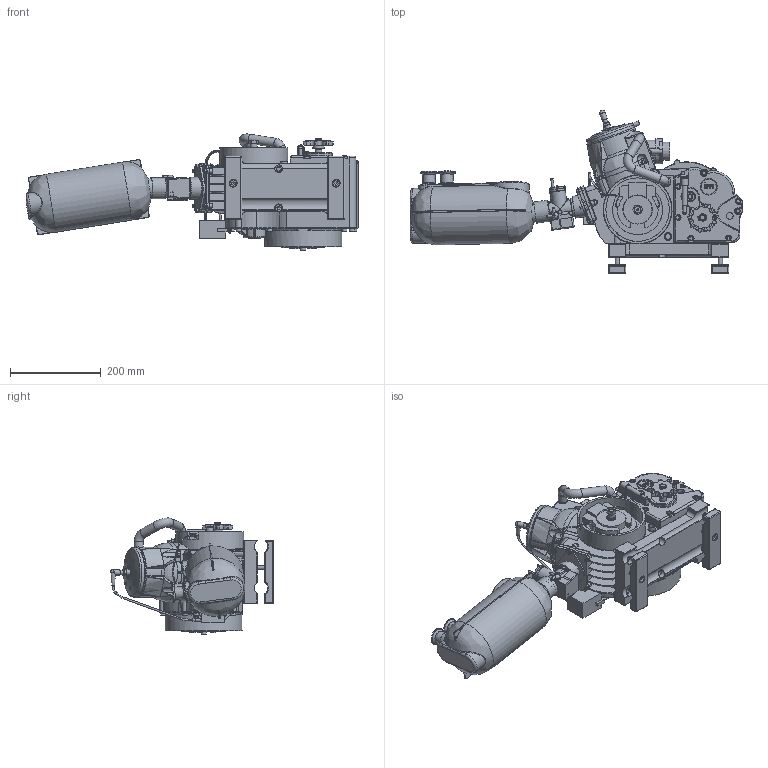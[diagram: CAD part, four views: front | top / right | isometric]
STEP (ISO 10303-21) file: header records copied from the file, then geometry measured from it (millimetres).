
FILE_DESCRIPTION(('STEP AP214'),'1');
FILE_NAME('Motor assembly.stp','2015-10-06T14:41:11',(' '),(' '),'Spatial InterOp 3D',' ',' ');
FILE_SCHEMA(('automotive_design'));
Length unit declared in the file: millimetre
Products named in the file (20): Motor assembly 18; Motor assembly 17; Motor assembly 16; Motor assembly 15; Motor assembly 14; Motor assembly 13; Motor assembly 12; Motor assembly 11; Motor assembly 10; Motor assembly 9; Motor assembly 8; Motor assembly 7; Motor assembly 6; Motor assembly 5; Motor assembly 4; Motor assembly 3; Motor assembly 2; Motor assembly 1; Motor assembly 0
Assembly tree (19 placements, depth 3):
  (unnamed)
    Motor assembly 18
      Motor assembly 17
      Motor assembly 16
      Motor assembly 15
    Motor assembly 14
    Motor assembly 13
    Motor assembly 12
    Motor assembly 11
    Motor assembly 10
    Motor assembly 9
    Motor assembly 8
    Motor assembly 7
    Motor assembly 6
    Motor assembly 5
    Motor assembly 4
    Motor assembly 3
    Motor assembly 2
    Motor assembly 1
    Motor assembly 0
Bounding box: 731.76 x 359.91 x 255.78 mm (x, y, z)
Volume: 14142118.5 mm3; surface area: 874659 mm2
Topology: 18 solids, 21 shells, 3053 faces, 7417 edges, 4493 vertices
Faces by surface type: plane 1226, cylinder 981, torus 356, bspline 336, cone 79, sphere 57, extrusion 18
Full cylindrical faces by diameter (mm): 1.5 x6, 1.7 x2, 2 x1, 2.603 x5, 3 x4, 3.003 x1, 3.528 x1, 4 x6, 4.469 x1, 5 x8, 6 x2, 6.5 x4, 7 x12, 7.5 x2, 8 x15, 9 x3, 9.4 x1, 10 x11, 10.186 x1, 11 x24, 12 x4, 12.162 x1, 12.458 x1, 13 x10, 14.209 x1, 15 x6, 15.541 x1, 16 x8, 17 x11, 18.175 x1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
Entity records: 136217 total; most frequent: CARTESIAN_POINT 43866, ORIENTED_EDGE 13930, DIRECTION 13754, EDGE_CURVE 6965, AXIS2_PLACEMENT_3D 5195, VERTEX_POINT 4425, EDGE_LOOP 3572, VECTOR 3364
